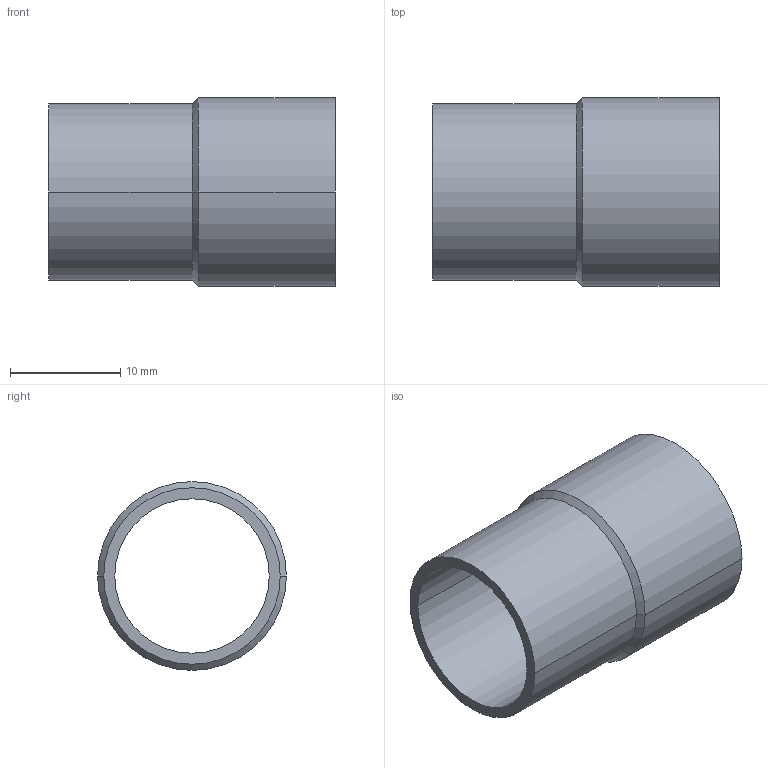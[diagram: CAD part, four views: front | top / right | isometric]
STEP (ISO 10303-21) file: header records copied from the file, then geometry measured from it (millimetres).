
FILE_DESCRIPTION((''),'2;1');
FILE_NAME('G:\Technics\CAD\Bauteile\Serie 15243\152431615.stp','2005-10-21T12:49:33',('boden'),(''),'Autodesk Inventor 8','Autodesk Inventor 8','');
FILE_SCHEMA(('AUTOMOTIVE_DESIGN { 1 0 10303 214 1 1 1 1 }'));
Length unit declared in the file: millimetre
Products named in the file (1): 152431615
Bounding box: 26 x 17.11 x 17.11 mm (x, y, z)
Volume: 1280 mm3; surface area: 2657.7 mm2
Topology: 1 solids, 1 shells, 14 faces, 28 edges, 16 vertices
Faces by surface type: cylinder 8, cone 4, plane 2
Entity records: 391 total; most frequent: DIRECTION 74, CARTESIAN_POINT 59, ORIENTED_EDGE 56, AXIS2_PLACEMENT_3D 31, EDGE_CURVE 28, VERTEX_POINT 16, CIRCLE 16, EDGE_LOOP 16
